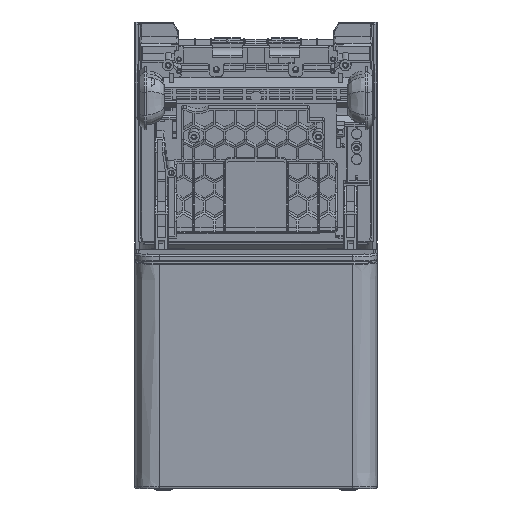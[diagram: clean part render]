
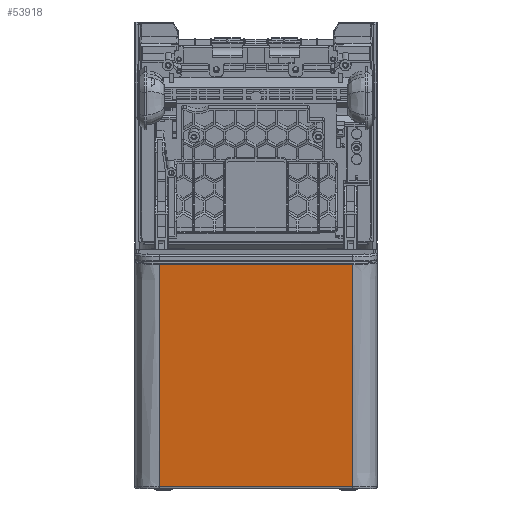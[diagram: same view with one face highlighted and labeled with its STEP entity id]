
A CAD part, top view. The second image highlights one B-rep face of the part: STEP entity #53918.
In plain terms, the highlighted planar face has unit normal (0, -0.125, 0.992).
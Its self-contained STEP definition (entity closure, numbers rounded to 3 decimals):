
#48349=DIRECTION('',(1.,0.,0.));
#48350=VECTOR('',#48349,111.792);
#48351=CARTESIAN_POINT('',(-15.246,-82.725,
124.21));
#48352=LINE('',#48351,#48350);
#48353=DIRECTION('',(0.,0.992,0.125));
#48354=VECTOR('',#48353,129.759);
#48355=CARTESIAN_POINT('',(-15.246,-82.725,
124.21));
#48356=LINE('',#48355,#48354);
#48357=DIRECTION('',(-1.,0.,0.));
#48358=VECTOR('',#48357,111.792);
#48359=CARTESIAN_POINT('',(96.546,46.01,140.474));
#48360=LINE('',#48359,#48358);
#48361=DIRECTION('',(0.,-0.992,-0.125));
#48362=VECTOR('',#48361,129.759);
#48363=CARTESIAN_POINT('',(96.546,46.01,140.474));
#48364=LINE('',#48363,#48362);
#48808=CARTESIAN_POINT('',(-15.246,-82.725,
124.21));
#48809=CARTESIAN_POINT('',(96.546,-82.725,
124.21));
#48810=VERTEX_POINT('',#48808);
#48811=VERTEX_POINT('',#48809);
#49140=CARTESIAN_POINT('',(96.546,46.01,140.474));
#49141=CARTESIAN_POINT('',(-15.246,46.01,
140.474));
#49142=VERTEX_POINT('',#49140);
#49143=VERTEX_POINT('',#49141);
#53904=CARTESIAN_POINT('',(110.65,-83.6,124.1));
#53905=DIRECTION('',(0.,-0.125,0.992));
#53906=DIRECTION('',(0.,0.992,0.125));
#53907=AXIS2_PLACEMENT_3D('',#53904,#53905,#53906);
#53908=PLANE('',#53907);
#53910=ORIENTED_EDGE('',*,*,#53909,.F.);
#53912=ORIENTED_EDGE('',*,*,#53911,.T.);
#53914=ORIENTED_EDGE('',*,*,#53913,.F.);
#53915=ORIENTED_EDGE('',*,*,#53896,.T.);
#53916=EDGE_LOOP('',(#53910,#53912,#53914,#53915));
#53917=FACE_OUTER_BOUND('',#53916,.F.);
#53896=EDGE_CURVE('',#49142,#48811,#48364,.T.);
#53909=EDGE_CURVE('',#48810,#48811,#48352,.T.);
#53911=EDGE_CURVE('',#48810,#49143,#48356,.T.);
#53913=EDGE_CURVE('',#49142,#49143,#48360,.T.);
#53918=ADVANCED_FACE('',(#53917),#53908,.T.);
